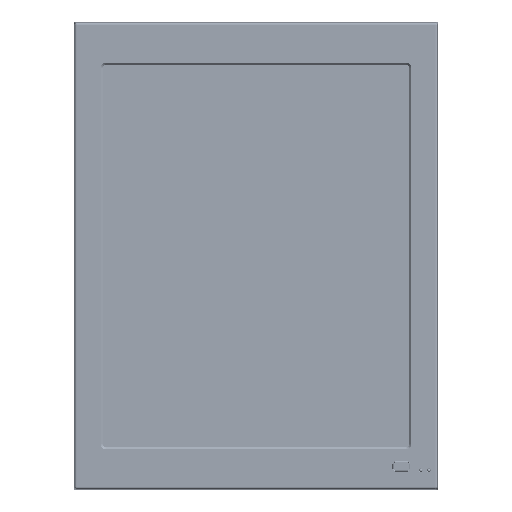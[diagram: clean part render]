
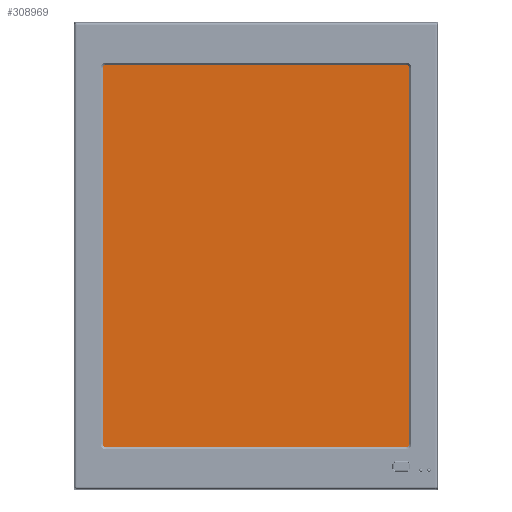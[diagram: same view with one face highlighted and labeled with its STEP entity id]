
A CAD part, top view. The second image highlights one B-rep face of the part: STEP entity #308969.
In plain terms, the highlighted planar face has unit normal (0, 0, 1).
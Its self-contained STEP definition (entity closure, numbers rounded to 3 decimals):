
#204640 = DIRECTION ( 'NONE',  ( 0., -1., 0. ) ) ;
#204642 = VECTOR ( 'NONE', #204640, 1000. ) ;
#204643 = CARTESIAN_POINT ( 'NONE',  ( 28.529, 418.129, 28.15 ) ) ;
#204644 = LINE ( 'NONE', #204643, #204642 ) ;
#204711 = CARTESIAN_POINT ( 'NONE',  ( 329.589, 41.809, 28.15 ) ) ;
#204720 = DIRECTION ( 'NONE',  ( 0., 1., 0. ) ) ;
#204722 = VECTOR ( 'NONE', #204720, 1000. ) ;
#204724 = CARTESIAN_POINT ( 'NONE',  ( 329.589, 418.129, 28.15 ) ) ;
#204737 = LINE ( 'NONE', #204724, #204722 ) ;
#204875 = CARTESIAN_POINT ( 'NONE',  ( 28.529, 41.809, 28.15 ) ) ;
#204877 = DIRECTION ( 'NONE',  ( 1., 0., 0. ) ) ;
#204878 = VECTOR ( 'NONE', #204877, 1000. ) ;
#204879 = CARTESIAN_POINT ( 'NONE',  ( 329.589, 41.809, 28.15 ) ) ;
#204880 = LINE ( 'NONE', #204879, #204878 ) ;
#204896 = CARTESIAN_POINT ( 'NONE',  ( 28.529, 418.129, 28.15 ) ) ;
#205057 = FACE_OUTER_BOUND ( 'NONE', #308777, .T. ) ;
#205170 = DIRECTION ( 'NONE',  ( 0., -1., 0. ) ) ;
#205173 = DIRECTION ( 'NONE',  ( 0., 0., 1. ) ) ;
#205175 = CARTESIAN_POINT ( 'NONE',  ( 28.529, 418.129, 28.15 ) ) ;
#205176 = AXIS2_PLACEMENT_3D ( 'NONE', #205175, #205173, #205170 ) ;
#205178 = PLANE ( 'NONE',  #205176 ) ;
#205225 = CARTESIAN_POINT ( 'NONE',  ( 329.589, 418.129, 28.15 ) ) ;
#205227 = DIRECTION ( 'NONE',  ( -1., 0., 0. ) ) ;
#205229 = VECTOR ( 'NONE', #205227, 1000. ) ;
#205231 = CARTESIAN_POINT ( 'NONE',  ( 329.589, 418.129, 28.15 ) ) ;
#205233 = LINE ( 'NONE', #205231, #205229 ) ;
#308774 = EDGE_CURVE ( 'NONE', #308863, #308876, #204644, .T. ) ;
#308777 = EDGE_LOOP ( 'NONE', ( #308976, #308981, #308983, #308988 ) ) ;
#308795 = EDGE_CURVE ( 'NONE', #308797, #309014, #204737, .T. ) ;
#308797 = VERTEX_POINT ( 'NONE', #204711 ) ;
#308863 = VERTEX_POINT ( 'NONE', #204896 ) ;
#308871 = EDGE_CURVE ( 'NONE', #308876, #308797, #204880, .T. ) ;
#308876 = VERTEX_POINT ( 'NONE', #204875 ) ;
#308969 = ADVANCED_FACE ( 'NONE', ( #205057 ), #205178, .T. ) ;
#308976 = ORIENTED_EDGE ( 'NONE', *, *, #309012, .T. ) ;
#308981 = ORIENTED_EDGE ( 'NONE', *, *, #308774, .T. ) ;
#308983 = ORIENTED_EDGE ( 'NONE', *, *, #308871, .T. ) ;
#308988 = ORIENTED_EDGE ( 'NONE', *, *, #308795, .T. ) ;
#309012 = EDGE_CURVE ( 'NONE', #309014, #308863, #205233, .T. ) ;
#309014 = VERTEX_POINT ( 'NONE', #205225 ) ;
